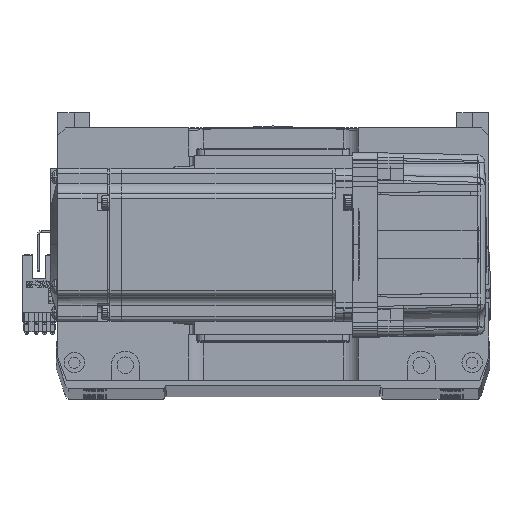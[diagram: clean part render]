
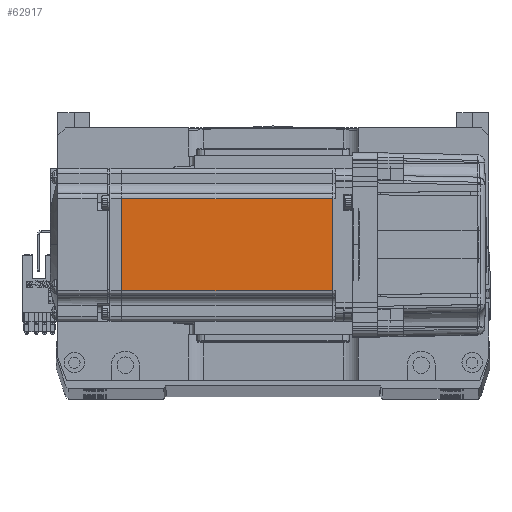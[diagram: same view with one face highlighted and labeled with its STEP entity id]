
A CAD part, top view. The second image highlights one B-rep face of the part: STEP entity #62917.
In plain terms, the highlighted planar face has unit normal (0, 0, 1).
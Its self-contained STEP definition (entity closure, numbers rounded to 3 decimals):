
#678 = CARTESIAN_POINT ( 'NONE',  ( -6.5, -25., 30. ) ) ;
#4040 = ORIENTED_EDGE ( 'NONE', *, *, #37740, .F. ) ;
#4075 = ORIENTED_EDGE ( 'NONE', *, *, #19754, .T. ) ;
#6591 = VERTEX_POINT ( 'NONE', #7585 ) ;
#7092 = DIRECTION ( 'NONE',  ( -1., 0., 0. ) ) ;
#7200 = VERTEX_POINT ( 'NONE', #55299 ) ;
#7585 = CARTESIAN_POINT ( 'NONE',  ( -7.75, 18., 30. ) ) ;
#9489 = EDGE_CURVE ( 'NONE', #6591, #66011, #65859, .T. ) ;
#9940 = CARTESIAN_POINT ( 'NONE',  ( -90.45, 0., 30. ) ) ;
#12550 = LINE ( 'NONE', #9940, #67133 ) ;
#19754 = EDGE_CURVE ( 'NONE', #66011, #33986, #12550, .T. ) ;
#21734 = DIRECTION ( 'NONE',  ( 0., 0., 1. ) ) ;
#23717 = CARTESIAN_POINT ( 'NONE',  ( -6.5, 18., 30. ) ) ;
#24438 = CARTESIAN_POINT ( 'NONE',  ( -90.45, -18., 30. ) ) ;
#27041 = DIRECTION ( 'NONE',  ( 1., 0., 0. ) ) ;
#29809 = VECTOR ( 'NONE', #39032, 1000. ) ;
#33144 = LINE ( 'NONE', #44573, #29809 ) ;
#33986 = VERTEX_POINT ( 'NONE', #24438 ) ;
#34906 = VECTOR ( 'NONE', #36573, 1000. ) ;
#35629 = DIRECTION ( 'NONE',  ( 0., -1., 0. ) ) ;
#36339 = CARTESIAN_POINT ( 'NONE',  ( -6.5, -18., 30. ) ) ;
#36573 = DIRECTION ( 'NONE',  ( -1., 0., 0. ) ) ;
#37384 = LINE ( 'NONE', #36339, #34906 ) ;
#37740 = EDGE_CURVE ( 'NONE', #6591, #7200, #33144, .T. ) ;
#39032 = DIRECTION ( 'NONE',  ( 0., -1., 0. ) ) ;
#39426 = AXIS2_PLACEMENT_3D ( 'NONE', #678, #21734, #27041 ) ;
#43224 = ORIENTED_EDGE ( 'NONE', *, *, #9489, .T. ) ;
#43294 = PLANE ( 'NONE',  #39426 ) ;
#43887 = EDGE_LOOP ( 'NONE', ( #4040, #43224, #4075, #59115 ) ) ;
#44573 = CARTESIAN_POINT ( 'NONE',  ( -7.75, 0., 30. ) ) ;
#48230 = CARTESIAN_POINT ( 'NONE',  ( -90.45, 18., 30. ) ) ;
#51813 = VECTOR ( 'NONE', #7092, 1000. ) ;
#55299 = CARTESIAN_POINT ( 'NONE',  ( -7.75, -18., 30. ) ) ;
#59115 = ORIENTED_EDGE ( 'NONE', *, *, #62820, .F. ) ;
#62820 = EDGE_CURVE ( 'NONE', #7200, #33986, #37384, .T. ) ;
#62917 = ADVANCED_FACE ( 'NONE', ( #63817 ), #43294, .T. ) ;
#63817 = FACE_OUTER_BOUND ( 'NONE', #43887, .T. ) ;
#65859 = LINE ( 'NONE', #23717, #51813 ) ;
#66011 = VERTEX_POINT ( 'NONE', #48230 ) ;
#67133 = VECTOR ( 'NONE', #35629, 1000. ) ;
